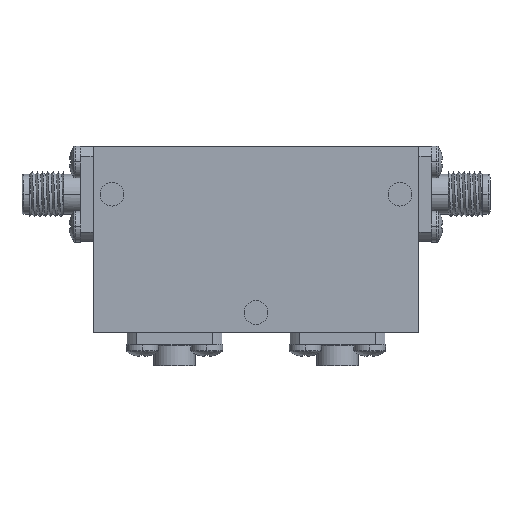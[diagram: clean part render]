
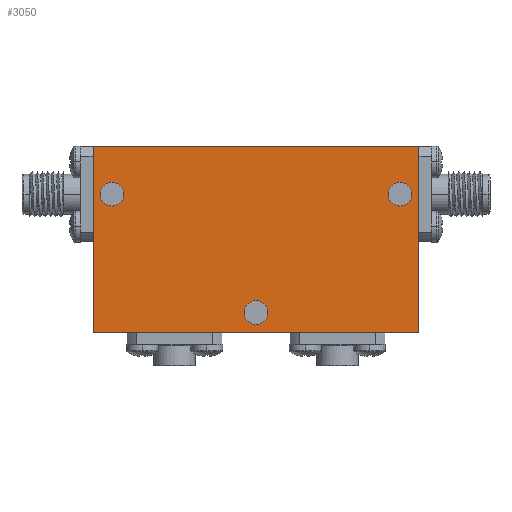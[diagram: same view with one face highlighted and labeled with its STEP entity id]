
A CAD part, top view. The second image highlights one B-rep face of the part: STEP entity #3050.
In plain terms, the highlighted planar face has unit normal (0, 0, 1).
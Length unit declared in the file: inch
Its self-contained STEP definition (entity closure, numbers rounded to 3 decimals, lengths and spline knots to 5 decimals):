
#15 = LINE ( 'NONE', #2178, #4498 ) ;
#25 = CARTESIAN_POINT ( 'NONE',  ( 0.86, -0.49, 0.25 ) ) ;
#84 = CIRCLE ( 'NONE', #534, 0.0625 ) ;
#123 = ORIENTED_EDGE ( 'NONE', *, *, #4134, .F. ) ;
#167 = EDGE_CURVE ( 'NONE', #2612, #396, #2316, .T. ) ;
#173 = DIRECTION ( 'NONE',  ( 1., 0., 0. ) ) ;
#179 = AXIS2_PLACEMENT_3D ( 'NONE', #2248, #660, #4172 ) ;
#219 = CARTESIAN_POINT ( 'NONE',  ( -0.86, -0.49, 0.25 ) ) ;
#220 = CARTESIAN_POINT ( 'NONE',  ( 0., -0.385, 0.25 ) ) ;
#284 = ORIENTED_EDGE ( 'NONE', *, *, #167, .T. ) ;
#302 = CARTESIAN_POINT ( 'NONE',  ( 0.86, 0.49, 0.25 ) ) ;
#354 = EDGE_LOOP ( 'NONE', ( #3198, #284, #825, #4719 ) ) ;
#382 = CARTESIAN_POINT ( 'NONE',  ( 0.8225, 0.24, 0.25 ) ) ;
#396 = VERTEX_POINT ( 'NONE', #1561 ) ;
#415 = AXIS2_PLACEMENT_3D ( 'NONE', #1763, #2450, #173 ) ;
#417 = DIRECTION ( 'NONE',  ( 0., 0., 1. ) ) ;
#472 = CIRCLE ( 'NONE', #2575, 0.0625 ) ;
#534 = AXIS2_PLACEMENT_3D ( 'NONE', #2281, #3804, #1150 ) ;
#541 = VERTEX_POINT ( 'NONE', #914 ) ;
#600 = DIRECTION ( 'NONE',  ( 0., 0., 1. ) ) ;
#624 = EDGE_CURVE ( 'NONE', #2962, #1776, #2393, .T. ) ;
#660 = DIRECTION ( 'NONE',  ( 0., 0., 1. ) ) ;
#678 = VECTOR ( 'NONE', #4373, 39.37008 ) ;
#721 = EDGE_LOOP ( 'NONE', ( #4341, #4732 ) ) ;
#764 = VERTEX_POINT ( 'NONE', #972 ) ;
#769 = VECTOR ( 'NONE', #1340, 39.37008 ) ;
#825 = ORIENTED_EDGE ( 'NONE', *, *, #2144, .T. ) ;
#905 = LINE ( 'NONE', #1324, #678 ) ;
#914 = CARTESIAN_POINT ( 'NONE',  ( 0.6975, 0.24, 0.25 ) ) ;
#955 = CARTESIAN_POINT ( 'NONE',  ( 0.76, 0.24, 0.25 ) ) ;
#972 = CARTESIAN_POINT ( 'NONE',  ( -0.6975, 0.24, 0.25 ) ) ;
#1008 = DIRECTION ( 'NONE',  ( 0., 0., 1. ) ) ;
#1150 = DIRECTION ( 'NONE',  ( 1., 0., 0. ) ) ;
#1253 = FACE_BOUND ( 'NONE', #721, .T. ) ;
#1300 = CIRCLE ( 'NONE', #179, 0.0625 ) ;
#1324 = CARTESIAN_POINT ( 'NONE',  ( -0.86, 0.49, 0.25 ) ) ;
#1340 = DIRECTION ( 'NONE',  ( -1., 0., 0. ) ) ;
#1363 = AXIS2_PLACEMENT_3D ( 'NONE', #3453, #417, #3091 ) ;
#1412 = CARTESIAN_POINT ( 'NONE',  ( -0.86, 0.49, 0.25 ) ) ;
#1465 = EDGE_CURVE ( 'NONE', #3552, #2986, #2234, .T. ) ;
#1527 = VERTEX_POINT ( 'NONE', #382 ) ;
#1561 = CARTESIAN_POINT ( 'NONE',  ( -0.86, 0.49, 0.25 ) ) ;
#1613 = FACE_BOUND ( 'NONE', #4334, .T. ) ;
#1720 = CIRCLE ( 'NONE', #2508, 0.0625 ) ;
#1735 = DIRECTION ( 'NONE',  ( 0., 1., 0. ) ) ;
#1747 = CARTESIAN_POINT ( 'NONE',  ( 0.0625, -0.385, 0.25 ) ) ;
#1763 = CARTESIAN_POINT ( 'NONE',  ( 0., 0., 0.25 ) ) ;
#1776 = VERTEX_POINT ( 'NONE', #25 ) ;
#1911 = CARTESIAN_POINT ( 'NONE',  ( -0.0625, -0.385, 0.25 ) ) ;
#2126 = DIRECTION ( 'NONE',  ( 0., 0., 1. ) ) ;
#2134 = ORIENTED_EDGE ( 'NONE', *, *, #3215, .F. ) ;
#2144 = EDGE_CURVE ( 'NONE', #396, #2962, #905, .T. ) ;
#2161 = CARTESIAN_POINT ( 'NONE',  ( -0.76, 0.24, 0.25 ) ) ;
#2178 = CARTESIAN_POINT ( 'NONE',  ( 0.86, 0.49, 0.25 ) ) ;
#2234 = CIRCLE ( 'NONE', #2717, 0.0625 ) ;
#2248 = CARTESIAN_POINT ( 'NONE',  ( 0.76, 0.24, 0.25 ) ) ;
#2281 = CARTESIAN_POINT ( 'NONE',  ( -0.76, 0.24, 0.25 ) ) ;
#2316 = LINE ( 'NONE', #1412, #769 ) ;
#2338 = VECTOR ( 'NONE', #2400, 39.37008 ) ;
#2379 = EDGE_CURVE ( 'NONE', #2986, #3552, #3761, .T. ) ;
#2393 = LINE ( 'NONE', #3903, #2338 ) ;
#2400 = DIRECTION ( 'NONE',  ( 1., 0., 0. ) ) ;
#2450 = DIRECTION ( 'NONE',  ( 0., 0., 1. ) ) ;
#2505 = PLANE ( 'NONE',  #415 ) ;
#2508 = AXIS2_PLACEMENT_3D ( 'NONE', #2161, #1008, #4040 ) ;
#2575 = AXIS2_PLACEMENT_3D ( 'NONE', #955, #2126, #4783 ) ;
#2603 = VERTEX_POINT ( 'NONE', #4542 ) ;
#2612 = VERTEX_POINT ( 'NONE', #302 ) ;
#2717 = AXIS2_PLACEMENT_3D ( 'NONE', #220, #600, #4011 ) ;
#2962 = VERTEX_POINT ( 'NONE', #219 ) ;
#2986 = VERTEX_POINT ( 'NONE', #1747 ) ;
#3050 = ADVANCED_FACE ( 'NONE', ( #4237, #1253, #1613, #3520 ), #2505, .T. ) ;
#3091 = DIRECTION ( 'NONE',  ( 1., 0., 0. ) ) ;
#3198 = ORIENTED_EDGE ( 'NONE', *, *, #4500, .T. ) ;
#3215 = EDGE_CURVE ( 'NONE', #764, #2603, #84, .T. ) ;
#3453 = CARTESIAN_POINT ( 'NONE',  ( 0., -0.385, 0.25 ) ) ;
#3458 = ORIENTED_EDGE ( 'NONE', *, *, #4588, .F. ) ;
#3520 = FACE_OUTER_BOUND ( 'NONE', #354, .T. ) ;
#3552 = VERTEX_POINT ( 'NONE', #1911 ) ;
#3761 = CIRCLE ( 'NONE', #1363, 0.0625 ) ;
#3804 = DIRECTION ( 'NONE',  ( 0., 0., 1. ) ) ;
#3903 = CARTESIAN_POINT ( 'NONE',  ( -0.86, -0.49, 0.25 ) ) ;
#4011 = DIRECTION ( 'NONE',  ( 1., 0., 0. ) ) ;
#4040 = DIRECTION ( 'NONE',  ( 1., 0., 0. ) ) ;
#4134 = EDGE_CURVE ( 'NONE', #2603, #764, #1720, .T. ) ;
#4172 = DIRECTION ( 'NONE',  ( 1., 0., 0. ) ) ;
#4237 = FACE_BOUND ( 'NONE', #4613, .T. ) ;
#4334 = EDGE_LOOP ( 'NONE', ( #2134, #123 ) ) ;
#4341 = ORIENTED_EDGE ( 'NONE', *, *, #2379, .F. ) ;
#4373 = DIRECTION ( 'NONE',  ( 0., -1., 0. ) ) ;
#4480 = EDGE_CURVE ( 'NONE', #541, #1527, #472, .T. ) ;
#4482 = ORIENTED_EDGE ( 'NONE', *, *, #4480, .F. ) ;
#4498 = VECTOR ( 'NONE', #1735, 39.37008 ) ;
#4500 = EDGE_CURVE ( 'NONE', #1776, #2612, #15, .T. ) ;
#4542 = CARTESIAN_POINT ( 'NONE',  ( -0.8225, 0.24, 0.25 ) ) ;
#4588 = EDGE_CURVE ( 'NONE', #1527, #541, #1300, .T. ) ;
#4613 = EDGE_LOOP ( 'NONE', ( #3458, #4482 ) ) ;
#4719 = ORIENTED_EDGE ( 'NONE', *, *, #624, .T. ) ;
#4732 = ORIENTED_EDGE ( 'NONE', *, *, #1465, .F. ) ;
#4783 = DIRECTION ( 'NONE',  ( 1., 0., 0. ) ) ;
